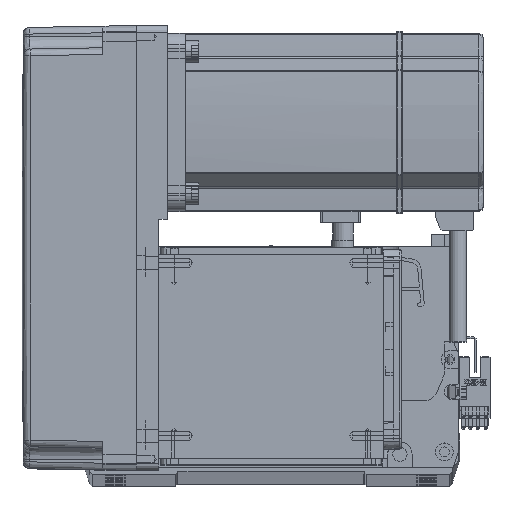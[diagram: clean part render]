
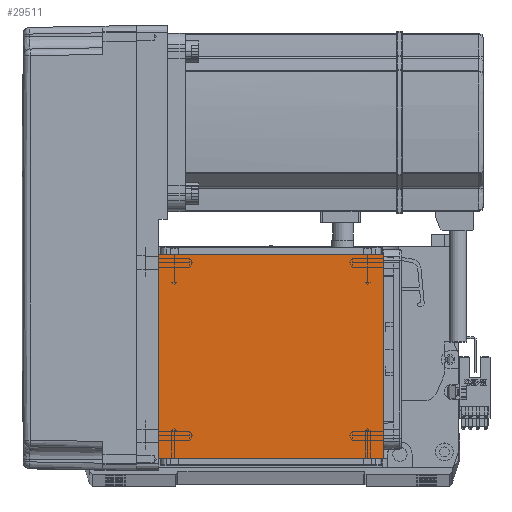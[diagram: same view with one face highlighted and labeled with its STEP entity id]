
A CAD part, top view. The second image highlights one B-rep face of the part: STEP entity #29511.
In plain terms, the highlighted planar face has unit normal (0, 0, 1).
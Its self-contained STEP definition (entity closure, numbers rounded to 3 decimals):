
#1882 = CARTESIAN_POINT ( 'NONE',  ( 50.5, 20., 115. ) ) ;
#2642 = PLANE ( 'NONE',  #11416 ) ;
#7800 = DIRECTION ( 'NONE',  ( 0., 0., 1. ) ) ;
#7962 = FACE_OUTER_BOUND ( 'NONE', #24492, .T. ) ;
#10782 = CARTESIAN_POINT ( 'NONE',  ( -70.004, 111.5, 115. ) ) ;
#11416 = AXIS2_PLACEMENT_3D ( 'NONE', #38666, #7800, #28700 ) ;
#12190 = EDGE_CURVE ( 'NONE', #33603, #29349, #12296, .T. ) ;
#12296 = LINE ( 'NONE', #10782, #61371 ) ;
#14922 = CARTESIAN_POINT ( 'NONE',  ( -50.5, 122., 115. ) ) ;
#16952 = LINE ( 'NONE', #14922, #42717 ) ;
#20076 = DIRECTION ( 'NONE',  ( 0., -1., 0. ) ) ;
#21065 = ORIENTED_EDGE ( 'NONE', *, *, #62852, .T. ) ;
#22101 = CARTESIAN_POINT ( 'NONE',  ( -70.004, 20., 115. ) ) ;
#24492 = EDGE_LOOP ( 'NONE', ( #45355, #51691, #28758, #21065 ) ) ;
#24603 = CARTESIAN_POINT ( 'NONE',  ( 50.5, 122., 115. ) ) ;
#26836 = VECTOR ( 'NONE', #50672, 1000. ) ;
#28442 = LINE ( 'NONE', #24603, #26836 ) ;
#28700 = DIRECTION ( 'NONE',  ( 1., 0., 0. ) ) ;
#28758 = ORIENTED_EDGE ( 'NONE', *, *, #34232, .F. ) ;
#29081 = VECTOR ( 'NONE', #58284, 1000. ) ;
#29349 = VERTEX_POINT ( 'NONE', #36194 ) ;
#29511 = ADVANCED_FACE ( 'NONE', ( #7962 ), #2642, .T. ) ;
#33603 = VERTEX_POINT ( 'NONE', #56797 ) ;
#34232 = EDGE_CURVE ( 'NONE', #46057, #62299, #58827, .T. ) ;
#36194 = CARTESIAN_POINT ( 'NONE',  ( 50.5, 111.5, 115. ) ) ;
#38666 = CARTESIAN_POINT ( 'NONE',  ( 0., 0., 115. ) ) ;
#41425 = DIRECTION ( 'NONE',  ( 1., 0., 0. ) ) ;
#42717 = VECTOR ( 'NONE', #20076, 1000. ) ;
#45355 = ORIENTED_EDGE ( 'NONE', *, *, #12190, .F. ) ;
#46057 = VERTEX_POINT ( 'NONE', #1882 ) ;
#50672 = DIRECTION ( 'NONE',  ( 0., 1., 0. ) ) ;
#51691 = ORIENTED_EDGE ( 'NONE', *, *, #53274, .T. ) ;
#51851 = CARTESIAN_POINT ( 'NONE',  ( -50.5, 20., 115. ) ) ;
#53274 = EDGE_CURVE ( 'NONE', #33603, #62299, #16952, .T. ) ;
#56797 = CARTESIAN_POINT ( 'NONE',  ( -50.5, 111.5, 115. ) ) ;
#58284 = DIRECTION ( 'NONE',  ( -1., 0., 0. ) ) ;
#58827 = LINE ( 'NONE', #22101, #29081 ) ;
#61371 = VECTOR ( 'NONE', #41425, 1000. ) ;
#62299 = VERTEX_POINT ( 'NONE', #51851 ) ;
#62852 = EDGE_CURVE ( 'NONE', #46057, #29349, #28442, .T. ) ;
